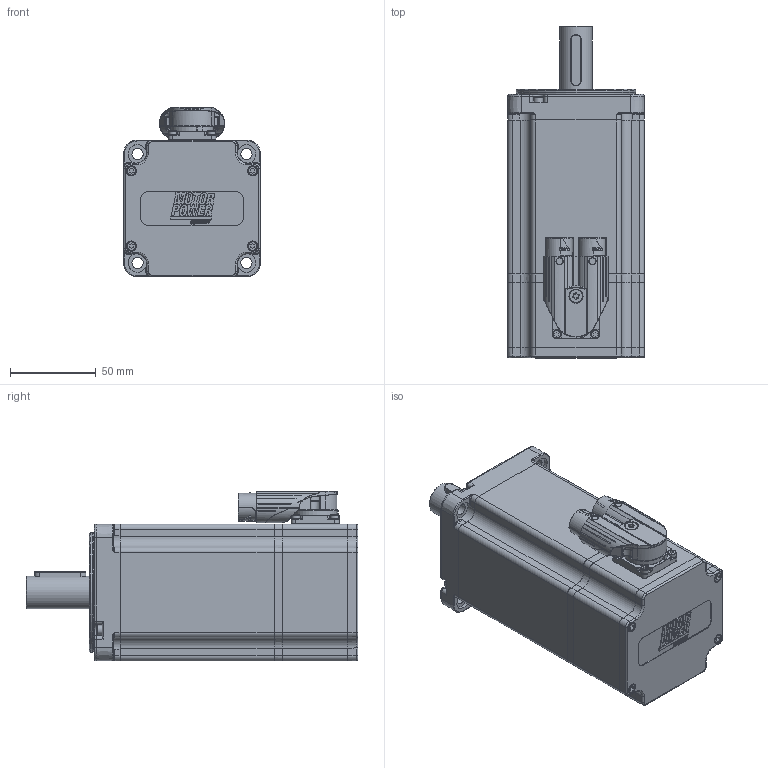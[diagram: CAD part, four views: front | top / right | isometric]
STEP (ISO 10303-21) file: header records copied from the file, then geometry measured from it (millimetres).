
FILE_DESCRIPTION(/* description */ ('Unknown'),/* implementation_level */ '2;1');
FILE_NAME(/* name */ 'TC4-80.3C.XX.X.3.M1.0.1.G11.33.80 Q0D211',/* time_stamp */ '2026-03-04T11:58:00+01:00',/* author */ ('Unknown'),/* organization */ ('Unknown'),/* preprocessor_version */ 'ST-DEVELOPER v19.4',/* originating_system */ 'Solid Edge',/* authorisation */ 'Unknown');
FILE_SCHEMA (('AUTOMOTIVE_DESIGN {1 0 10303 214 3 1 1}'));
Products named in the file (13): Q0D211 3C M1 VUOTO; 003151003154; 005117001560; 003107003286; 005911000192; 005113000500; 003155002201; 003103040148; 003003200297; 005911000185; 005119001500; 005911000202; 003251040719
Assembly tree (21 placements, depth 2):
  Q0D211 3C M1 VUOTO
    003151003154
    005117001560
    003107003286
    005911000192  x4
    005113000500
    003155002201
    003103040148
    003003200297
    005911000185  x4
    005119001500
    005911000202  x4
    003251040719
Bounding box: 80 x 194 x 99.25 mm (x, y, z)
Volume: 374193.8 mm3; surface area: 170235.1 mm2
Topology: 23 solids, 23 shells, 2779 faces, 6763 edges, 4204 vertices
Faces by surface type: plane 1061, cylinder 735, bspline 503, torus 288, cone 154, sphere 38
Full cylindrical faces by diameter (mm): 1 x21, 1.175 x12, 1.5 x1, 1.8 x5, 2 x1, 2.013 x4, 2.05 x3, 2.459 x20, 2.5 x5, 3 x8, 3.2 x5, 3.5 x18, 4 x2, 4.7 x4, 4.917 x1, 5.5 x8, 6 x9, 6.4 x1, 6.6 x4, 7 x4, 7.5 x1, 8 x1, 10 x2, 11 x4, 11.75 x1, 15 x2, 16.2 x2, 16.9 x1, 16.95 x1, 18.8 x1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
Entity records: 116203 total; most frequent: CARTESIAN_POINT 41268, ORIENTED_EDGE 12012, DIRECTION 10776, EDGE_CURVE 6006, AXIS2_PLACEMENT_3D 4161, VERTEX_POINT 3948, FACE_BOUND 3282, EDGE_LOOP 3264
